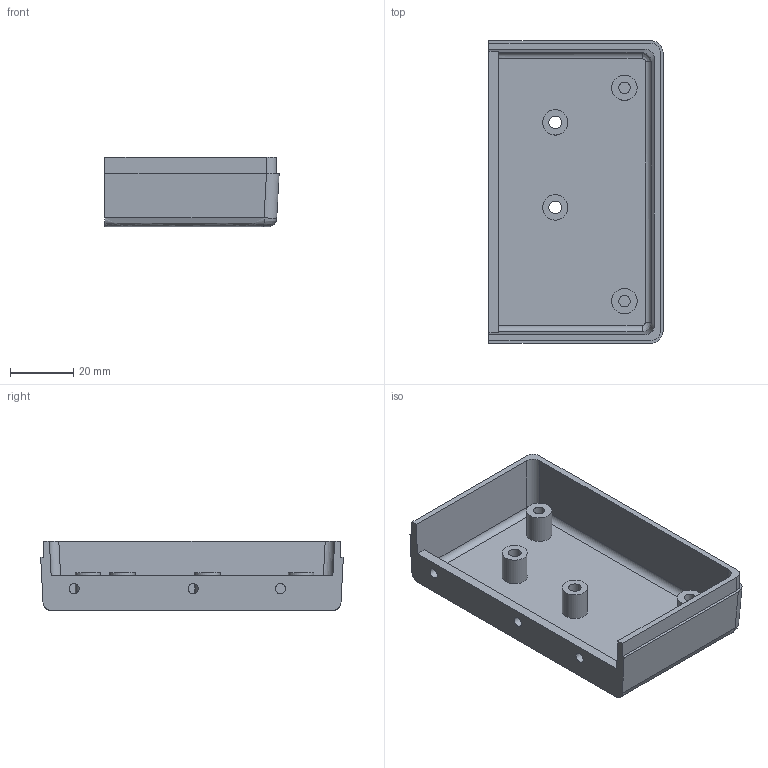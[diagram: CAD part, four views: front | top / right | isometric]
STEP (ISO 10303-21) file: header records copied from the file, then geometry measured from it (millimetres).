
FILE_DESCRIPTION(('FreeCAD Model'),'2;1');
FILE_NAME('Open CASCADE Shape Model','2023-09-06T18:20:04',(''),(''), 'Open CASCADE STEP processor 7.6','FreeCAD','Unknown');
FILE_SCHEMA(('AUTOMOTIVE_DESIGN { 1 0 10303 214 1 1 1 1 }'));
Length unit declared in the file: millimetre
Products named in the file (1): Lower_Right_Sol
Bounding box: 54.89 x 95.37 x 22 mm (x, y, z)
Volume: 28444.4 mm3; surface area: 20937.9 mm2
Topology: 1 solids, 1 shells, 53 faces, 121 edges, 78 vertices
Faces by surface type: plane 21, cylinder 20, bspline 12
Full cylindrical faces by diameter (mm): 3.2 x3, 3.6 x2, 4 x2, 8 x6
Entity records: 5479 total; most frequent: CARTESIAN_POINT 3129, DIRECTION 395, ORIENTED_EDGE 242, PCURVE 242, DEFINITIONAL_REPRESENTATION 242, LINE 214, VECTOR 214, EDGE_CURVE 121
